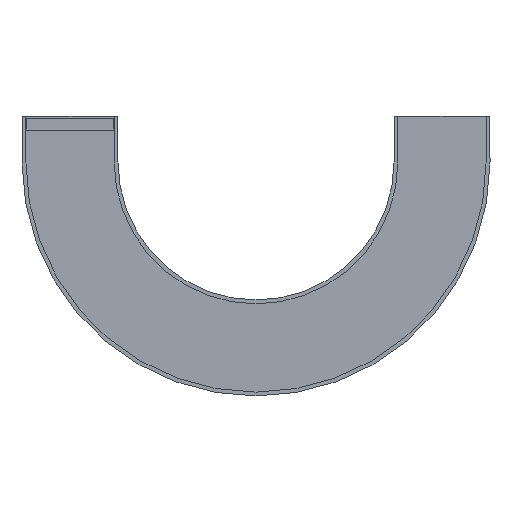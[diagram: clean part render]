
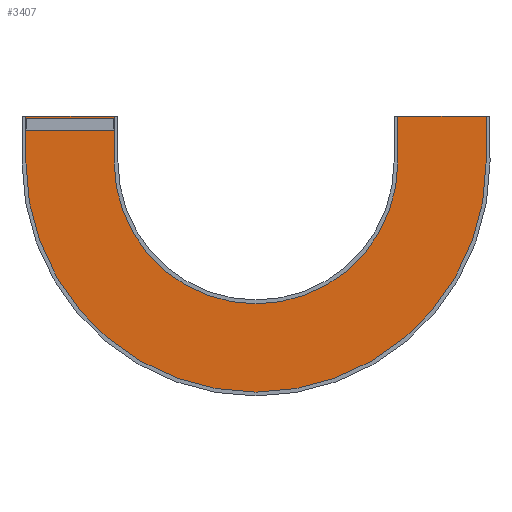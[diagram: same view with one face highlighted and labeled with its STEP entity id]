
A CAD part, front view. The second image highlights one B-rep face of the part: STEP entity #3407.
In plain terms, the highlighted planar face has unit normal (0, -1, 0).
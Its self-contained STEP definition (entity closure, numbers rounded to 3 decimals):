
#118 = DIRECTION ( 'NONE',  ( 1., 0., 0. ) ) ;
#121 = DIRECTION ( 'NONE',  ( 0., -1., 0. ) ) ;
#124 = CARTESIAN_POINT ( 'NONE',  ( 206.5, -57.525, -200. ) ) ;
#126 = PLANE ( 'NONE',  #7573 ) ;
#841 = LINE ( 'NONE', #6531, #870 ) ;
#848 = LINE ( 'NONE', #6568, #873 ) ;
#870 = VECTOR ( 'NONE', #6528, 1000. ) ;
#873 = VECTOR ( 'NONE', #6565, 1000. ) ;
#1210 = VECTOR ( 'NONE', #3481, 1000. ) ;
#1211 = LINE ( 'NONE', #3483, #1210 ) ;
#1212 = VECTOR ( 'NONE', #3484, 1000. ) ;
#1213 = LINE ( 'NONE', #3485, #1212 ) ;
#1214 = VECTOR ( 'NONE', #3487, 1000. ) ;
#1215 = LINE ( 'NONE', #3488, #1214 ) ;
#1216 = VECTOR ( 'NONE', #3489, 1000. ) ;
#1217 = LINE ( 'NONE', #3491, #1216 ) ;
#1572 = CIRCLE ( 'NONE', #7390, 1016.5 ) ;
#1577 = CIRCLE ( 'NONE', #7392, 603.5 ) ;
#1851 = CARTESIAN_POINT ( 'NONE',  ( -206.5, -57.525, 0. ) ) ;
#1901 = CARTESIAN_POINT ( 'NONE',  ( 1826.5, -57.525, 0. ) ) ;
#1918 = VERTEX_POINT ( 'NONE', #2252 ) ;
#1966 = CARTESIAN_POINT ( 'NONE',  ( 1413.5, -57.525, 0. ) ) ;
#2021 = CARTESIAN_POINT ( 'NONE',  ( 1826.5, -57.525, -200. ) ) ;
#2022 = CARTESIAN_POINT ( 'NONE',  ( -206.5, -57.525, -200. ) ) ;
#2033 = CARTESIAN_POINT ( 'NONE',  ( 206.5, -57.525, -200. ) ) ;
#2036 = CARTESIAN_POINT ( 'NONE',  ( 810., -57.525, -803.5 ) ) ;
#2102 = CARTESIAN_POINT ( 'NONE',  ( 206.5, -57.525, 0. ) ) ;
#2137 = CARTESIAN_POINT ( 'NONE',  ( 810., -57.525, -1216.5 ) ) ;
#2252 = CARTESIAN_POINT ( 'NONE',  ( 1413.5, -57.525, -200. ) ) ;
#2359 = VERTEX_POINT ( 'NONE', #2137 ) ;
#2413 = VERTEX_POINT ( 'NONE', #2102 ) ;
#2466 = VERTEX_POINT ( 'NONE', #2036 ) ;
#2468 = VERTEX_POINT ( 'NONE', #2033 ) ;
#2477 = VERTEX_POINT ( 'NONE', #2022 ) ;
#2478 = VERTEX_POINT ( 'NONE', #2021 ) ;
#2522 = VERTEX_POINT ( 'NONE', #1966 ) ;
#2573 = VERTEX_POINT ( 'NONE', #1901 ) ;
#2611 = VERTEX_POINT ( 'NONE', #1851 ) ;
#2768 = CIRCLE ( 'NONE', #7434, 603.5 ) ;
#2774 = CIRCLE ( 'NONE', #7436, 1016.5 ) ;
#3407 = ADVANCED_FACE ( 'NONE', ( #4572 ), #126, .T. ) ;
#3481 = DIRECTION ( 'NONE',  ( -1., 0., 0. ) ) ;
#3483 = CARTESIAN_POINT ( 'NONE',  ( 1413.5, -57.525, 0. ) ) ;
#3484 = DIRECTION ( 'NONE',  ( 0., 0., 1. ) ) ;
#3485 = CARTESIAN_POINT ( 'NONE',  ( -206.5, -57.525, -200. ) ) ;
#3487 = DIRECTION ( 'NONE',  ( 1., 0., 0. ) ) ;
#3488 = CARTESIAN_POINT ( 'NONE',  ( 206.5, -57.525, 0. ) ) ;
#3489 = DIRECTION ( 'NONE',  ( 0., 0., 1. ) ) ;
#3491 = CARTESIAN_POINT ( 'NONE',  ( 206.5, -57.525, -200. ) ) ;
#4211 = EDGE_CURVE ( 'NONE', #2359, #2478, #2774, .T. ) ;
#4215 = EDGE_CURVE ( 'NONE', #2468, #2466, #2768, .T. ) ;
#4296 = EDGE_CURVE ( 'NONE', #1918, #2522, #848, .T. ) ;
#4301 = EDGE_CURVE ( 'NONE', #2478, #2573, #841, .T. ) ;
#4432 = EDGE_CURVE ( 'NONE', #2466, #1918, #1577, .T. ) ;
#4434 = EDGE_CURVE ( 'NONE', #2477, #2359, #1572, .T. ) ;
#4572 = FACE_OUTER_BOUND ( 'NONE', #4790, .T. ) ;
#4790 = EDGE_LOOP ( 'NONE', ( #5613, #5614, #5615, #5616, #5617, #5618, #5619, #5620, #5621, #5622 ) ) ;
#5613 = ORIENTED_EDGE ( 'NONE', *, *, #7182, .F. ) ;
#5614 = ORIENTED_EDGE ( 'NONE', *, *, #7183, .F. ) ;
#5615 = ORIENTED_EDGE ( 'NONE', *, *, #4434, .T. ) ;
#5616 = ORIENTED_EDGE ( 'NONE', *, *, #4211, .T. ) ;
#5617 = ORIENTED_EDGE ( 'NONE', *, *, #4301, .T. ) ;
#5618 = ORIENTED_EDGE ( 'NONE', *, *, #7184, .T. ) ;
#5619 = ORIENTED_EDGE ( 'NONE', *, *, #4296, .F. ) ;
#5620 = ORIENTED_EDGE ( 'NONE', *, *, #4432, .F. ) ;
#5621 = ORIENTED_EDGE ( 'NONE', *, *, #4215, .F. ) ;
#5622 = ORIENTED_EDGE ( 'NONE', *, *, #7181, .T. ) ;
#6362 = DIRECTION ( 'NONE',  ( 0., 0., -1. ) ) ;
#6363 = DIRECTION ( 'NONE',  ( 0., -1., 0. ) ) ;
#6364 = CARTESIAN_POINT ( 'NONE',  ( 810., -57.525, -200. ) ) ;
#6370 = DIRECTION ( 'NONE',  ( 0., 0., -1. ) ) ;
#6371 = DIRECTION ( 'NONE',  ( 0., -1., 0. ) ) ;
#6372 = CARTESIAN_POINT ( 'NONE',  ( 810., -57.525, -200. ) ) ;
#6528 = DIRECTION ( 'NONE',  ( 0., 0., 1. ) ) ;
#6531 = CARTESIAN_POINT ( 'NONE',  ( 1826.5, -57.525, -200. ) ) ;
#6565 = DIRECTION ( 'NONE',  ( 0., 0., 1. ) ) ;
#6568 = CARTESIAN_POINT ( 'NONE',  ( 1413.5, -57.525, -200. ) ) ;
#6651 = DIRECTION ( 'NONE',  ( 0., 0., -1. ) ) ;
#6654 = DIRECTION ( 'NONE',  ( 0., -1., 0. ) ) ;
#6657 = CARTESIAN_POINT ( 'NONE',  ( 810., -57.525, -200. ) ) ;
#6869 = DIRECTION ( 'NONE',  ( 0., 0., -1. ) ) ;
#6870 = DIRECTION ( 'NONE',  ( 0., -1., 0. ) ) ;
#6871 = CARTESIAN_POINT ( 'NONE',  ( 810., -57.525, -200. ) ) ;
#7181 = EDGE_CURVE ( 'NONE', #2468, #2413, #1217, .T. ) ;
#7182 = EDGE_CURVE ( 'NONE', #2611, #2413, #1215, .T. ) ;
#7183 = EDGE_CURVE ( 'NONE', #2477, #2611, #1213, .T. ) ;
#7184 = EDGE_CURVE ( 'NONE', #2573, #2522, #1211, .T. ) ;
#7390 = AXIS2_PLACEMENT_3D ( 'NONE', #6364, #6363, #6362 ) ;
#7392 = AXIS2_PLACEMENT_3D ( 'NONE', #6372, #6371, #6370 ) ;
#7434 = AXIS2_PLACEMENT_3D ( 'NONE', #6871, #6870, #6869 ) ;
#7436 = AXIS2_PLACEMENT_3D ( 'NONE', #6657, #6654, #6651 ) ;
#7573 = AXIS2_PLACEMENT_3D ( 'NONE', #124, #121, #118 ) ;
